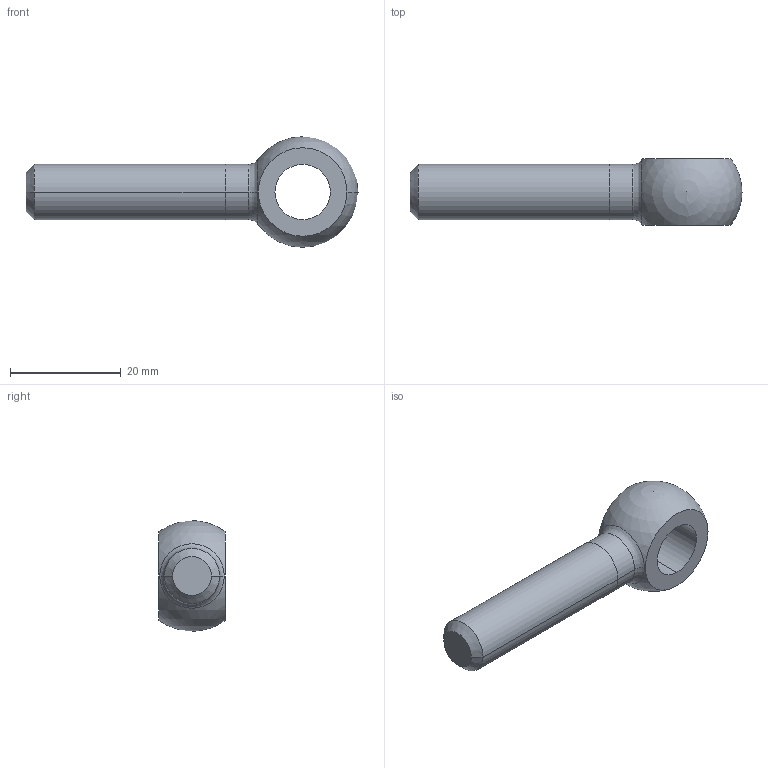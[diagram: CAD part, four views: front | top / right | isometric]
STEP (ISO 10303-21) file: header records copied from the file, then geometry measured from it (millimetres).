
FILE_DESCRIPTION (( 'STEP AP214' ), '1' );
FILE_NAME ('444-M10-50-NI.step', '2024-10-15T06:37:31', ( '' ), ( '' ), 'SwSTEP 2.0', 'SolidWorks 2022', '' );
FILE_SCHEMA (( 'AUTOMOTIVE_DESIGN' ));
Length unit declared in the file: millimetre
Products named in the file (1): 444-M10-50-NI
Bounding box: 60 x 12 x 20 mm (x, y, z)
Volume: 5541 mm3; surface area: 2633.7 mm2
Topology: 1 solids, 1 shells, 16 faces, 40 edges, 25 vertices
Faces by surface type: cylinder 6, plane 4, torus 2, cone 2, sphere 2
Entity records: 504 total; most frequent: DIRECTION 94, CARTESIAN_POINT 72, ORIENTED_EDGE 68, AXIS2_PLACEMENT_3D 43, EDGE_CURVE 34, CIRCLE 26, VERTEX_POINT 21, EDGE_LOOP 19
